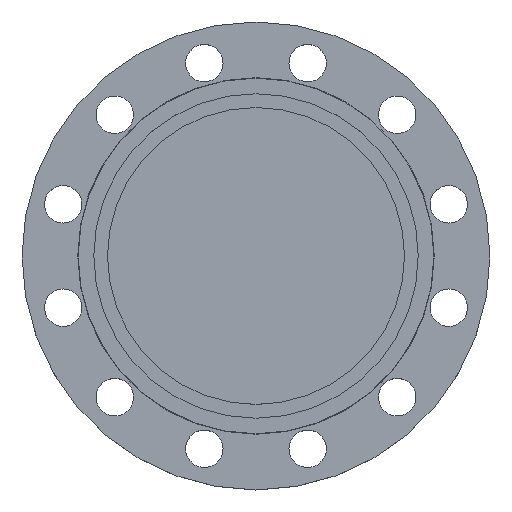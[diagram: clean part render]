
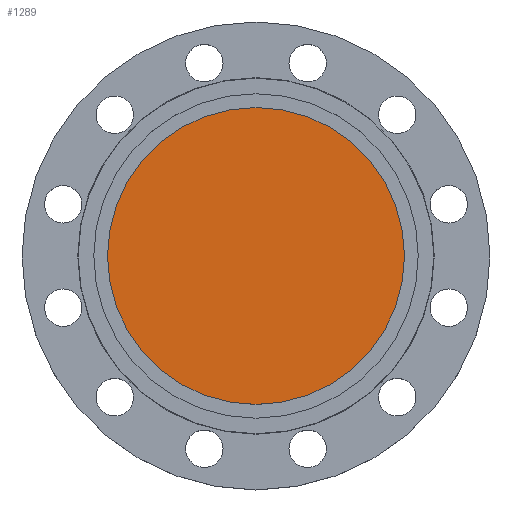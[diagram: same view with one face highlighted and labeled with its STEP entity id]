
A CAD part, top view. The second image highlights one B-rep face of the part: STEP entity #1289.
In plain terms, the highlighted planar face has unit normal (0, 0, 1).
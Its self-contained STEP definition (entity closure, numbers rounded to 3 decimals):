
#15 = VERTEX_POINT ( 'NONE', #864 ) ;
#83 = DIRECTION ( 'NONE',  ( -1., 0., 0. ) ) ;
#84 = DIRECTION ( 'NONE',  ( 0., 0., -1. ) ) ;
#86 = CARTESIAN_POINT ( 'NONE',  ( 0., 0., 0. ) ) ;
#103 = DIRECTION ( 'NONE',  ( 1., 0., 0. ) ) ;
#107 = PLANE ( 'NONE',  #829 ) ;
#110 = CARTESIAN_POINT ( 'NONE',  ( 0., 0., 0. ) ) ;
#113 = DIRECTION ( 'NONE',  ( 0., 0., 1. ) ) ;
#123 = FACE_OUTER_BOUND ( 'NONE', #1384, .T. ) ;
#156 = CIRCLE ( 'NONE', #1041, 119. ) ;
#261 = CARTESIAN_POINT ( 'NONE',  ( -119., 0., 0. ) ) ;
#291 = EDGE_CURVE ( 'NONE', #15, #1124, #156, .T. ) ;
#707 = DIRECTION ( 'NONE',  ( -1., 0., 0. ) ) ;
#708 = DIRECTION ( 'NONE',  ( 0., 0., -1. ) ) ;
#709 = CARTESIAN_POINT ( 'NONE',  ( 0., 0., 0. ) ) ;
#829 = AXIS2_PLACEMENT_3D ( 'NONE', #110, #113, #103 ) ;
#832 = CIRCLE ( 'NONE', #868, 119. ) ;
#864 = CARTESIAN_POINT ( 'NONE',  ( 119., 0., 0. ) ) ;
#868 = AXIS2_PLACEMENT_3D ( 'NONE', #86, #84, #83 ) ;
#1041 = AXIS2_PLACEMENT_3D ( 'NONE', #709, #708, #707 ) ;
#1124 = VERTEX_POINT ( 'NONE', #261 ) ;
#1204 = ORIENTED_EDGE ( 'NONE', *, *, #1293, .F. ) ;
#1205 = ORIENTED_EDGE ( 'NONE', *, *, #291, .F. ) ;
#1289 = ADVANCED_FACE ( 'NONE', ( #123 ), #107, .T. ) ;
#1293 = EDGE_CURVE ( 'NONE', #1124, #15, #832, .T. ) ;
#1384 = EDGE_LOOP ( 'NONE', ( #1204, #1205 ) ) ;
